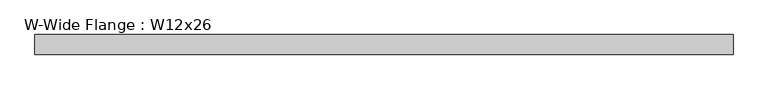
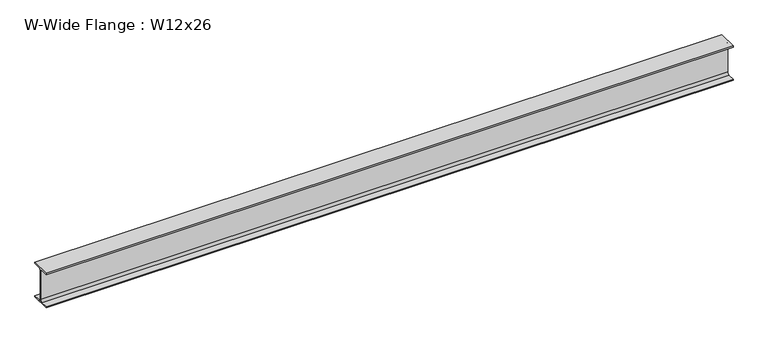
"""IFC4 building model written with IfcOpenShell, lengths in millimetres: beam geometry, W-Wide Flange : W12x26."""

from ifc_helpers import new_model, si_unit, point, frame, frame_2d, origin, place, context, project, spatial, polyline, circle_curve, trimmed, segment, composite_curve, outline, extrude, source, transform, mapped, element, save


def w_wide_flange_w12x26_05a32f20(model_context):
    return source(origin(), model_context, "Body", "SweptSolid", [
        extrude(outline(composite_curve([segment(polyline([(82.423, -145.288), (82.423, -154.94), (-82.423, -154.94), (-82.423, -145.288), (-20.2565, -145.288)]), True, "CONTINUOUS"), segment(trimmed(circle_curve(frame_2d((-20.2565, -127.9525)), 17.3355), [point((-20.2565, -145.288))], [point((-2.921, -127.9525))], True, "CARTESIAN"), True, "CONTINUOUS"), segment(polyline([(-2.921, -127.9525), (-2.921, 127.9525)]), True, "CONTINUOUS"), segment(trimmed(circle_curve(frame_2d((-20.2565, 127.9525)), 17.3355), [point((-2.921, 127.9525))], [point((-20.2565, 145.288))], True, "CARTESIAN"), True, "CONTINUOUS"), segment(polyline([(-20.2565, 145.288), (-82.423, 145.288), (-82.423, 154.94), (82.423, 154.94), (82.423, 145.288), (20.2565, 145.288)]), True, "CONTINUOUS"), segment(trimmed(circle_curve(frame_2d((20.2565, 127.9525)), 17.3355), [point((20.2565, 145.288))], [point((2.921, 127.9525))], True, "CARTESIAN"), True, "CONTINUOUS"), segment(polyline([(2.921, 127.9525), (2.921, -127.9525)]), True, "CONTINUOUS"), segment(trimmed(circle_curve(frame_2d((20.2565, -127.9525)), 17.3355), [point((2.921, -127.9525))], [point((20.2565, -145.288))], True, "CARTESIAN"), True, "CONTINUOUS"), segment(polyline([(20.2565, -145.288), (82.423, -145.288)]), True, "CONTINUOUS")], self_intersect=False)), frame((-2935.097, 0.0, 0.0), z_axis=(1.0, 0.0, 0.0), x_axis=(0.0, 1.0, 0.0)), (0.0, 0.0, 1.0), 5870.194),
    ])


if __name__ == "__main__":
    model = new_model("IFC4")
    model_context = context("Model", 3, world=origin())
    ifc_project = project(units=[si_unit("LENGTHUNIT", "METRE", prefix="MILLI")], contexts=[model_context])
    site = spatial("IfcSite", under=ifc_project)
    building = spatial("IfcBuilding", under=site)
    placement = place(None, origin())
    w_wide_flange_w12x26_shape = w_wide_flange_w12x26_05a32f20(model_context)
    element("IfcBeam", 1, ObjectType="W-Wide Flange : W12x26", at=placement, inside=building, context=model_context, shape_type="MappedRepresentation", body=[
        mapped(w_wide_flange_w12x26_shape, transform((0.0, 0.0, 0.0), x_axis=(1.0, 0.0, 0.0), y_axis=(0.0, 1.0, 0.0), z_axis=(0.0, 0.0, 1.0))),
    ])
    save(model, "model.ifc")
